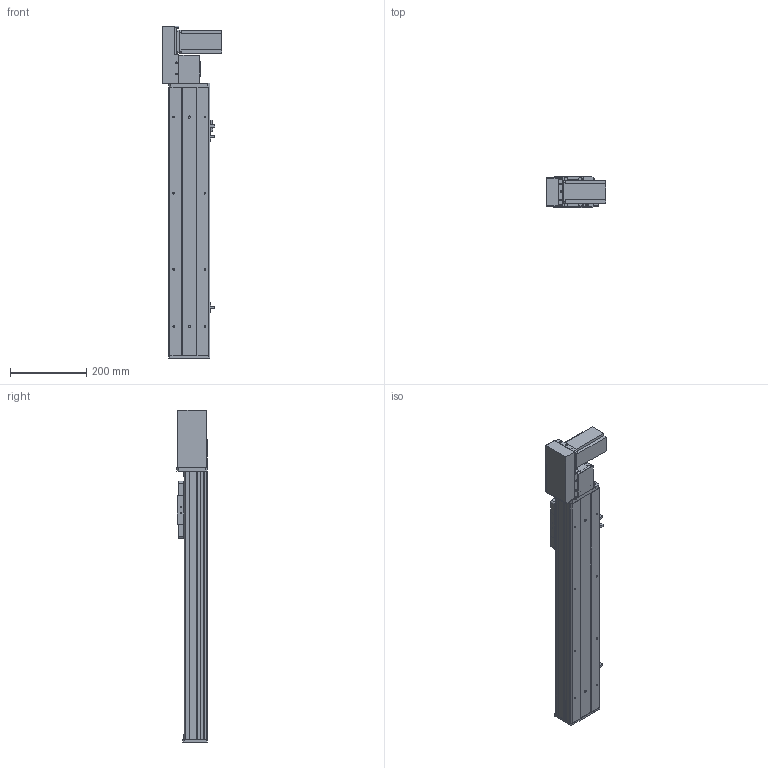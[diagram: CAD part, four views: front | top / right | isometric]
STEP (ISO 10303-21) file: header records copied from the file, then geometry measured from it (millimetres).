
FILE_DESCRIPTION (( 'STEP AP203' ), '1' );
FILE_NAME ('Y10CB-D90-S450-BL-P400W.STEP', '2020-02-15T07:41:10', ( '微软用户' ), ( '微软中国' ), 'SwSTEP 2.0', 'SolidWorks 2017', '' );
FILE_SCHEMA (( 'CONFIG_CONTROL_DESIGN' ));
Length unit declared in the file: millimetre
Products named in the file (18): Y10CB- 掛极耜裔啣-毀---; Y10B--々湍喘謫眊--666; Y10C---詩湍揤啣; Y10B-耜蚾蟀諉啣----; 10CB9-掛极; 0B-萇儂楊擘啣; 10CB-耜裔; san松下电机400不带刹车----; Y135C-陔俋离換覜結え-; 0B-源倛裔啣; Y100-135俋离換覜ん--; 0B-埴倛裔啣; 0CB-雄赽釱---; Y10CB-D90-S450-BL-P400W; Y俋欶BR----; 0Cb-俋欶---; 10CB-詩湍-; Y10B-々湍喘謫眊楊擘啣--
Assembly tree (21 placements, depth 2):
  Y10CB-D90-S450-BL-P400W
    0CB-雄赽釱---
    0Cb-俋欶---
    Y10B-々湍喘謫眊楊擘啣--
    Y10B--々湍喘謫眊--666
    Y10B-耜蚾蟀諉啣----
    0B-萇儂楊擘啣
    san松下电机400不带刹车----
    0B-源倛裔啣
    0B-埴倛裔啣
    Y俋欶BR----
    10CB-詩湍-
    Y10CB- 掛极耜裔啣-毀---  x2
    Y10C---詩湍揤啣  x2
    10CB9-掛极
    10CB-耜裔
    Y135C-陔俋离換覜結え-
    Y100-135俋离換覜ん--  x3
Bounding box: 157.5 x 80.5 x 872.5 mm (x, y, z)
Volume: 2177081.9 mm3; surface area: 928404.9 mm2
Topology: 21 solids, 21 shells, 954 faces, 2523 edges, 1658 vertices
Faces by surface type: plane 473, cylinder 457, cone 24
Entity records: 29404 total; most frequent: CARTESIAN_POINT 5025, DIRECTION 4790, ORIENTED_EDGE 4516, EDGE_CURVE 2258, AXIS2_PLACEMENT_3D 1713, VERTEX_POINT 1484, VECTOR 1364, LINE 1364
